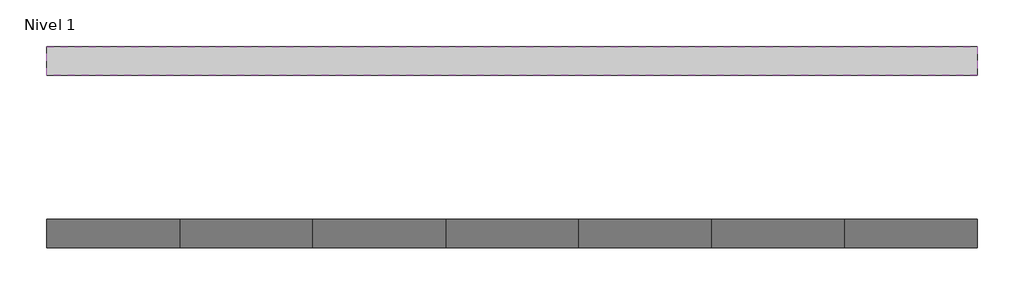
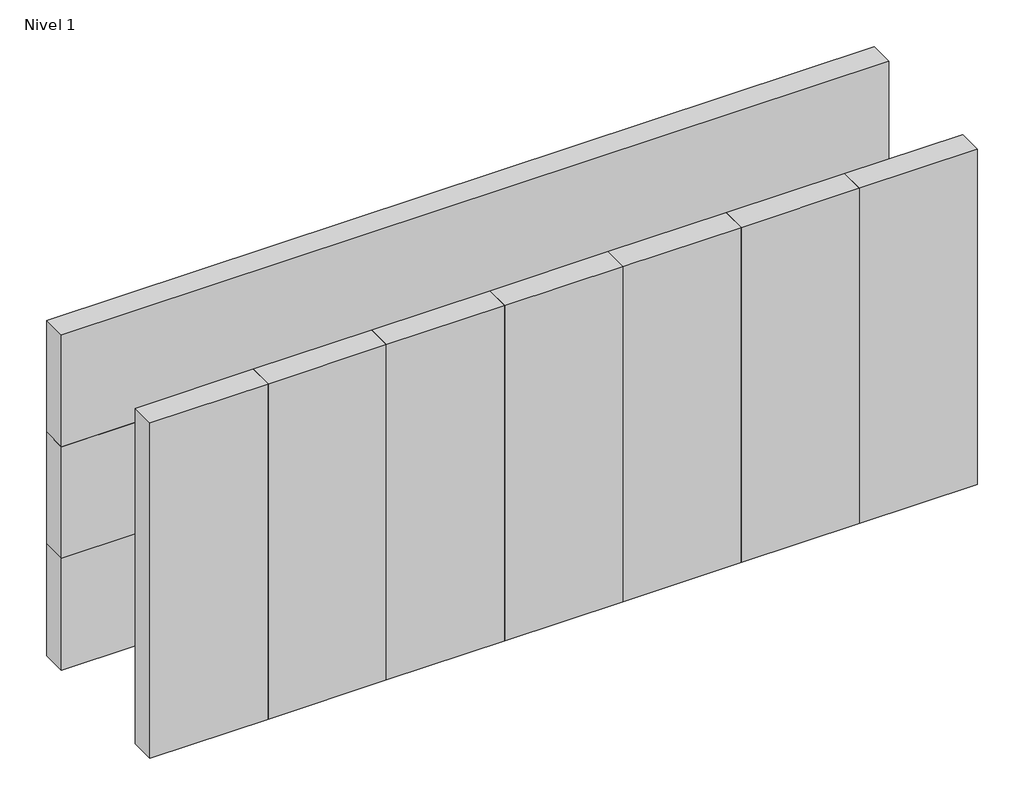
# One storey: 10 plates.
"""IFC4 building model written with IfcOpenShell, lengths in millimetres."""

from ifc_helpers import new_model, si_unit, origin, place, context, project, spatial, transform, mapped, element, save
from components import panel_del_sistema_e171bdba, panel_del_sistema_439805da

model = new_model("IFC4")

# Units and contexts
model_context = context("Model", 3, world=origin())
ifc_project = project(units=[si_unit("LENGTHUNIT", "METRE", prefix="MILLI")], contexts=[model_context])

# Site, building, storey
site = spatial("IfcSite", under=ifc_project)
building = spatial("IfcBuilding", under=site)
storey = spatial("IfcBuildingStorey", under=building, Name="Nivel 1", Elevation=0.0)

# Plates
placement = place(None, origin())
panel_del_sistema_shape = panel_del_sistema_e171bdba(model_context)
element("IfcPlate", 1, ObjectType="Panel del sistema : HIANSA - CHAPA PERFILADA CUBIERTA - BANDEJA 130.600 Hor", at=placement, inside=storey, context=model_context, shape_type="MappedRepresentation", body=[
    mapped(panel_del_sistema_shape, transform((6468.14367, 18436.5269271, 0.0), x_axis=(1.0, 0.0, 0.0), y_axis=(0.0, 1.0, 0.0), z_axis=(0.0, 0.0, 1.0))),
])
element("IfcPlate", 2, ObjectType="Panel del sistema : HIANSA - CHAPA PERFILADA CUBIERTA - BANDEJA 130.600 Hor", at=placement, inside=storey, context=model_context, shape_type="MappedRepresentation", body=[
    mapped(panel_del_sistema_shape, transform((6468.14367, 18436.5269271, 600.0), x_axis=(1.0, 0.0, 0.0), y_axis=(0.0, 1.0, 0.0), z_axis=(0.0, 0.0, 1.0))),
])
element("IfcPlate", 3, ObjectType="Panel del sistema : HIANSA - CHAPA PERFILADA CUBIERTA - BANDEJA 130.600 Hor", at=placement, inside=storey, context=model_context, shape_type="MappedRepresentation", body=[
    mapped(panel_del_sistema_shape, transform((6468.14367, 18436.5269271, 1200.0), x_axis=(1.0, 0.0, 0.0), y_axis=(0.0, 1.0, 0.0), z_axis=(0.0, 0.0, 1.0))),
])
panel_del_sistema_2_shape = panel_del_sistema_439805da(model_context)
element("IfcPlate", 4, ObjectType="Panel del sistema : HIANSA - CHAPA PERFILADA CUBIERTA - BANDEJA 130.600 Vert", at=placement, inside=storey, context=model_context, shape_type="MappedRepresentation", body=[
    mapped(panel_del_sistema_2_shape, transform((4668.1436702, 17658.0269271, 0.0), x_axis=(1.0, 0.0, 0.0), y_axis=(0.0, 1.0, 0.0), z_axis=(0.0, 0.0, 1.0))),
])
element("IfcPlate", 5, ObjectType="Panel del sistema : HIANSA - CHAPA PERFILADA CUBIERTA - BANDEJA 130.600 Vert", at=placement, inside=storey, context=model_context, shape_type="MappedRepresentation", body=[
    mapped(panel_del_sistema_2_shape, transform((7068.1436703, 17658.0269271, 0.0), x_axis=(1.0, 0.0, 0.0), y_axis=(0.0, 1.0, 0.0), z_axis=(0.0, 0.0, 1.0))),
])
element("IfcPlate", 6, ObjectType="Panel del sistema : HIANSA - CHAPA PERFILADA CUBIERTA - BANDEJA 130.600 Vert", at=placement, inside=storey, context=model_context, shape_type="MappedRepresentation", body=[
    mapped(panel_del_sistema_2_shape, transform((7668.1436703, 17658.0269271, 0.0), x_axis=(1.0, 0.0, 0.0), y_axis=(0.0, 1.0, 0.0), z_axis=(0.0, 0.0, 1.0))),
])
element("IfcPlate", 7, ObjectType="Panel del sistema : HIANSA - CHAPA PERFILADA CUBIERTA - BANDEJA 130.600 Vert", at=placement, inside=storey, context=model_context, shape_type="MappedRepresentation", body=[
    mapped(panel_del_sistema_2_shape, transform((8268.1436702, 17658.0269271, 0.0), x_axis=(1.0, 0.0, 0.0), y_axis=(0.0, 1.0, 0.0), z_axis=(0.0, 0.0, 1.0))),
])
element("IfcPlate", 8, ObjectType="Panel del sistema : HIANSA - CHAPA PERFILADA CUBIERTA - BANDEJA 130.600 Vert", at=placement, inside=storey, context=model_context, shape_type="MappedRepresentation", body=[
    mapped(panel_del_sistema_2_shape, transform((6468.1436703, 17658.0269271, 0.0), x_axis=(1.0, 0.0, 0.0), y_axis=(0.0, 1.0, 0.0), z_axis=(0.0, 0.0, 1.0))),
])
element("IfcPlate", 9, ObjectType="Panel del sistema : HIANSA - CHAPA PERFILADA CUBIERTA - BANDEJA 130.600 Vert", at=placement, inside=storey, context=model_context, shape_type="MappedRepresentation", body=[
    mapped(panel_del_sistema_2_shape, transform((5868.1436703, 17658.0269271, 0.0), x_axis=(1.0, 0.0, 0.0), y_axis=(0.0, 1.0, 0.0), z_axis=(0.0, 0.0, 1.0))),
])
element("IfcPlate", 10, ObjectType="Panel del sistema : HIANSA - CHAPA PERFILADA CUBIERTA - BANDEJA 130.600 Vert", at=placement, inside=storey, context=model_context, shape_type="MappedRepresentation", body=[
    mapped(panel_del_sistema_2_shape, transform((5268.1436703, 17658.0269271, 0.0), x_axis=(1.0, 0.0, 0.0), y_axis=(0.0, 1.0, 0.0), z_axis=(0.0, 0.0, 1.0))),
])

save(model, "model.ifc")
